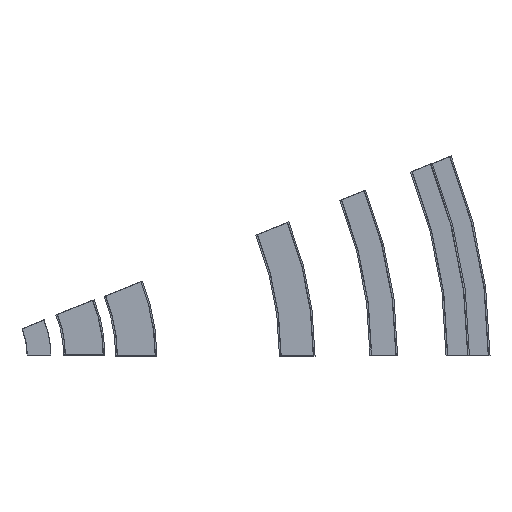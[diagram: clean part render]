
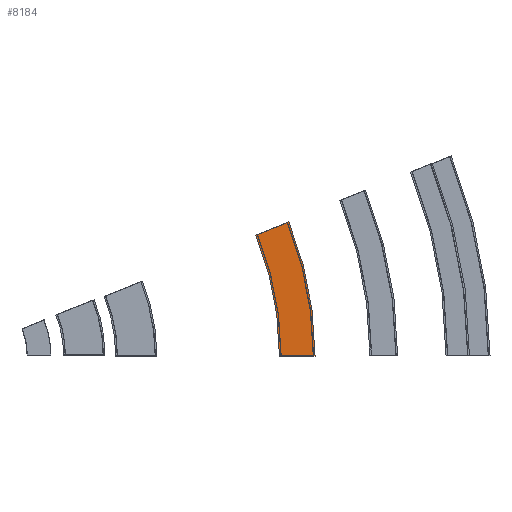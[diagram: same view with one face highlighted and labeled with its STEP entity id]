
A CAD part, top view. The second image highlights one B-rep face of the part: STEP entity #8184.
In plain terms, the highlighted planar face has unit normal (0, 0, 1).
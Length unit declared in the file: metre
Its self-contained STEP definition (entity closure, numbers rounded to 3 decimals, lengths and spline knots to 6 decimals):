
#8001 = CYLINDRICAL_SURFACE('',#8002,11.075744);
#8002 = AXIS2_PLACEMENT_3D('',#8003,#8004,#8005);
#8003 = CARTESIAN_POINT('',(0.,0.,-10.377182));
#8004 = DIRECTION('',(0.,0.,1.));
#8005 = DIRECTION('',(1.,0.,-0.));
#8026 = VERTEX_POINT('',#8027);
#8027 = CARTESIAN_POINT('',(10.269251,4.149047,
    -9.213978));
#8041 = PLANE('',#8042);
#8042 = AXIS2_PLACEMENT_3D('',#8043,#8044,#8045);
#8043 = CARTESIAN_POINT('',(10.836319,4.378157,
    -9.82558));
#8044 = DIRECTION('',(-0.375,0.927,0.));
#8045 = DIRECTION('',(0.,0.,1.));
#8053 = EDGE_CURVE('',#8054,#8026,#8056,.T.);
#8054 = VERTEX_POINT('',#8055);
#8055 = CARTESIAN_POINT('',(11.075744,0.,-9.213978));
#8056 = SURFACE_CURVE('',#8057,(#8062,#8069),.PCURVE_S1.);
#8057 = CIRCLE('',#8058,11.075744);
#8058 = AXIS2_PLACEMENT_3D('',#8059,#8060,#8061);
#8059 = CARTESIAN_POINT('',(0.,0.,-9.213978));
#8060 = DIRECTION('',(0.,0.,1.));
#8061 = DIRECTION('',(1.,0.,-0.));
#8062 = PCURVE('',#8001,#8063);
#8063 = DEFINITIONAL_REPRESENTATION('',(#8064),#8068);
#8064 = LINE('',#8065,#8066);
#8065 = CARTESIAN_POINT('',(0.,1.163));
#8066 = VECTOR('',#8067,1.);
#8067 = DIRECTION('',(1.,0.));
#8068 = ( GEOMETRIC_REPRESENTATION_CONTEXT(2) 
PARAMETRIC_REPRESENTATION_CONTEXT() REPRESENTATION_CONTEXT('2D SPACE',''
  ) );
#8069 = PCURVE('',#8070,#8075);
#8070 = PLANE('',#8071);
#8071 = AXIS2_PLACEMENT_3D('',#8072,#8073,#8074);
#8072 = CARTESIAN_POINT('',(0.,0.,-9.213978));
#8073 = DIRECTION('',(0.,0.,1.));
#8074 = DIRECTION('',(1.,0.,-0.));
#8075 = DEFINITIONAL_REPRESENTATION('',(#8076),#8080);
#8076 = CIRCLE('',#8077,11.075744);
#8077 = AXIS2_PLACEMENT_2D('',#8078,#8079);
#8078 = CARTESIAN_POINT('',(0.,0.));
#8079 = DIRECTION('',(1.,-0.));
#8080 = ( GEOMETRIC_REPRESENTATION_CONTEXT(2) 
PARAMETRIC_REPRESENTATION_CONTEXT() REPRESENTATION_CONTEXT('2D SPACE',''
  ) );
#8096 = PLANE('',#8097);
#8097 = AXIS2_PLACEMENT_3D('',#8098,#8099,#8100);
#8098 = CARTESIAN_POINT('',(11.687346,0.,-9.82558));
#8099 = DIRECTION('',(0.,1.,0.));
#8100 = DIRECTION('',(0.,-0.,1.));
#8130 = CYLINDRICAL_SURFACE('',#8131,12.298948);
#8131 = AXIS2_PLACEMENT_3D('',#8132,#8133,#8134);
#8132 = CARTESIAN_POINT('',(0.,0.,-9.273978));
#8133 = DIRECTION('',(-0.,-0.,-1.));
#8134 = DIRECTION('',(1.,0.,0.));
#8184 = ADVANCED_FACE('',(#8185),#8070,.T.);
#8185 = FACE_BOUND('',#8186,.F.);
#8186 = EDGE_LOOP('',(#8187,#8188,#8211,#8235));
#8187 = ORIENTED_EDGE('',*,*,#8053,.T.);
#8188 = ORIENTED_EDGE('',*,*,#8189,.T.);
#8189 = EDGE_CURVE('',#8026,#8190,#8192,.T.);
#8190 = VERTEX_POINT('',#8191);
#8191 = CARTESIAN_POINT('',(11.403386,4.607267,
    -9.213978));
#8192 = SURFACE_CURVE('',#8193,(#8197,#8204),.PCURVE_S1.);
#8193 = LINE('',#8194,#8195);
#8194 = CARTESIAN_POINT('',(10.324882,4.171523,
    -9.213978));
#8195 = VECTOR('',#8196,1.);
#8196 = DIRECTION('',(0.927,0.375,0.));
#8197 = PCURVE('',#8070,#8198);
#8198 = DEFINITIONAL_REPRESENTATION('',(#8199),#8203);
#8199 = LINE('',#8200,#8201);
#8200 = CARTESIAN_POINT('',(10.325,4.172));
#8201 = VECTOR('',#8202,1.);
#8202 = DIRECTION('',(0.927,0.375));
#8203 = ( GEOMETRIC_REPRESENTATION_CONTEXT(2) 
PARAMETRIC_REPRESENTATION_CONTEXT() REPRESENTATION_CONTEXT('2D SPACE',''
  ) );
#8204 = PCURVE('',#8041,#8205);
#8205 = DEFINITIONAL_REPRESENTATION('',(#8206),#8210);
#8206 = LINE('',#8207,#8208);
#8207 = CARTESIAN_POINT('',(0.612,-0.552));
#8208 = VECTOR('',#8209,1.);
#8209 = DIRECTION('',(0.,1.));
#8210 = ( GEOMETRIC_REPRESENTATION_CONTEXT(2) 
PARAMETRIC_REPRESENTATION_CONTEXT() REPRESENTATION_CONTEXT('2D SPACE',''
  ) );
#8211 = ORIENTED_EDGE('',*,*,#8212,.F.);
#8212 = EDGE_CURVE('',#8213,#8190,#8215,.T.);
#8213 = VERTEX_POINT('',#8214);
#8214 = CARTESIAN_POINT('',(12.298948,0.,-9.213978));
#8215 = SURFACE_CURVE('',#8216,(#8221,#8228),.PCURVE_S1.);
#8216 = CIRCLE('',#8217,12.298948);
#8217 = AXIS2_PLACEMENT_3D('',#8218,#8219,#8220);
#8218 = CARTESIAN_POINT('',(0.,0.,-9.213978));
#8219 = DIRECTION('',(0.,0.,1.));
#8220 = DIRECTION('',(1.,0.,-0.));
#8221 = PCURVE('',#8070,#8222);
#8222 = DEFINITIONAL_REPRESENTATION('',(#8223),#8227);
#8223 = CIRCLE('',#8224,12.298948);
#8224 = AXIS2_PLACEMENT_2D('',#8225,#8226);
#8225 = CARTESIAN_POINT('',(0.,0.));
#8226 = DIRECTION('',(1.,-0.));
#8227 = ( GEOMETRIC_REPRESENTATION_CONTEXT(2) 
PARAMETRIC_REPRESENTATION_CONTEXT() REPRESENTATION_CONTEXT('2D SPACE',''
  ) );
#8228 = PCURVE('',#8130,#8229);
#8229 = DEFINITIONAL_REPRESENTATION('',(#8230),#8234);
#8230 = LINE('',#8231,#8232);
#8231 = CARTESIAN_POINT('',(-0.,-0.06));
#8232 = VECTOR('',#8233,1.);
#8233 = DIRECTION('',(-1.,0.));
#8234 = ( GEOMETRIC_REPRESENTATION_CONTEXT(2) 
PARAMETRIC_REPRESENTATION_CONTEXT() REPRESENTATION_CONTEXT('2D SPACE',''
  ) );
#8235 = ORIENTED_EDGE('',*,*,#8236,.F.);
#8236 = EDGE_CURVE('',#8054,#8213,#8237,.T.);
#8237 = SURFACE_CURVE('',#8238,(#8242,#8249),.PCURVE_S1.);
#8238 = LINE('',#8239,#8240);
#8239 = CARTESIAN_POINT('',(11.135744,0.,-9.213978));
#8240 = VECTOR('',#8241,1.);
#8241 = DIRECTION('',(1.,0.,0.));
#8242 = PCURVE('',#8070,#8243);
#8243 = DEFINITIONAL_REPRESENTATION('',(#8244),#8248);
#8244 = LINE('',#8245,#8246);
#8245 = CARTESIAN_POINT('',(11.136,-0.));
#8246 = VECTOR('',#8247,1.);
#8247 = DIRECTION('',(1.,-0.));
#8248 = ( GEOMETRIC_REPRESENTATION_CONTEXT(2) 
PARAMETRIC_REPRESENTATION_CONTEXT() REPRESENTATION_CONTEXT('2D SPACE',''
  ) );
#8249 = PCURVE('',#8096,#8250);
#8250 = DEFINITIONAL_REPRESENTATION('',(#8251),#8255);
#8251 = LINE('',#8252,#8253);
#8252 = CARTESIAN_POINT('',(0.612,-0.552));
#8253 = VECTOR('',#8254,1.);
#8254 = DIRECTION('',(0.,1.));
#8255 = ( GEOMETRIC_REPRESENTATION_CONTEXT(2) 
PARAMETRIC_REPRESENTATION_CONTEXT() REPRESENTATION_CONTEXT('2D SPACE',''
  ) );
